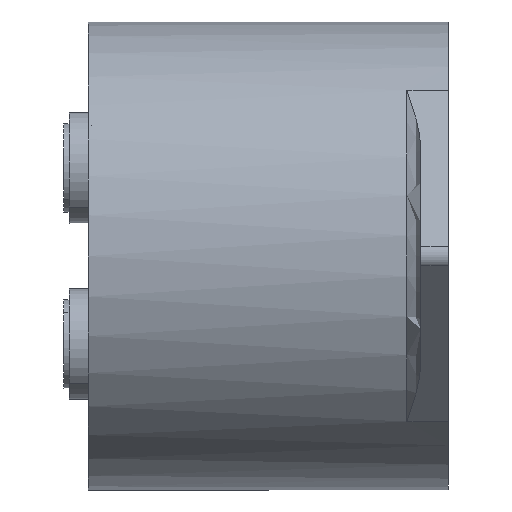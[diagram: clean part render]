
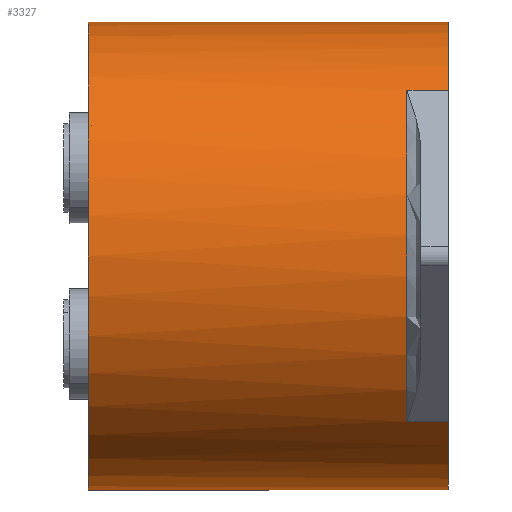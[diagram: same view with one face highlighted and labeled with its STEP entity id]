
A CAD part, left-side view. The second image highlights one B-rep face of the part: STEP entity #3327.
In plain terms, the highlighted cylindrical face has radius 42.25 mm (diameter 84.5 mm), a partial arc.
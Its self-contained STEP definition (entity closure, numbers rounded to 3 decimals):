
#26 = LINE ( 'NONE', #2326, #2755 ) ;
#60 = DIRECTION ( 'NONE',  ( 0., 0., -1. ) ) ;
#175 = VECTOR ( 'NONE', #5334, 1000. ) ;
#388 = VERTEX_POINT ( 'NONE', #2810 ) ;
#416 = DIRECTION ( 'NONE',  ( 0., -1., 0. ) ) ;
#588 = VECTOR ( 'NONE', #3111, 1000. ) ;
#634 = CARTESIAN_POINT ( 'NONE',  ( 0., 0., 0. ) ) ;
#853 = LINE ( 'NONE', #4677, #588 ) ;
#1066 = VERTEX_POINT ( 'NONE', #3037 ) ;
#1364 = EDGE_CURVE ( 'NONE', #5936, #388, #3461, .T. ) ;
#1412 = CARTESIAN_POINT ( 'NONE',  ( 0., 7.5, 0. ) ) ;
#1919 = DIRECTION ( 'NONE',  ( 0., 0., -1. ) ) ;
#2131 = EDGE_CURVE ( 'NONE', #5644, #3891, #26, .T. ) ;
#2193 = CARTESIAN_POINT ( 'NONE',  ( 0., 0., 0. ) ) ;
#2269 = VERTEX_POINT ( 'NONE', #3476 ) ;
#2298 = ORIENTED_EDGE ( 'NONE', *, *, #2811, .T. ) ;
#2326 = CARTESIAN_POINT ( 'NONE',  ( -29.857, 5., 29.894 ) ) ;
#2384 = EDGE_CURVE ( 'NONE', #2269, #388, #4881, .T. ) ;
#2700 = DIRECTION ( 'NONE',  ( 0., 0., -1. ) ) ;
#2708 = ORIENTED_EDGE ( 'NONE', *, *, #2131, .T. ) ;
#2755 = VECTOR ( 'NONE', #6533, 1000. ) ;
#2810 = CARTESIAN_POINT ( 'NONE',  ( 0., 0., -42.25 ) ) ;
#2811 = EDGE_CURVE ( 'NONE', #6051, #5644, #6332, .T. ) ;
#3037 = CARTESIAN_POINT ( 'NONE',  ( 0., 0., 42.25 ) ) ;
#3111 = DIRECTION ( 'NONE',  ( 0., -1., 0. ) ) ;
#3227 = FACE_OUTER_BOUND ( 'NONE', #5017, .T. ) ;
#3232 = CIRCLE ( 'NONE', #3324, 42.25 ) ;
#3324 = AXIS2_PLACEMENT_3D ( 'NONE', #3684, #4809, #2700 ) ;
#3327 = ADVANCED_FACE ( 'NONE', ( #3227 ), #6315, .T. ) ;
#3461 = CIRCLE ( 'NONE', #3648, 42.25 ) ;
#3476 = CARTESIAN_POINT ( 'NONE',  ( 0., 65., -42.25 ) ) ;
#3648 = AXIS2_PLACEMENT_3D ( 'NONE', #634, #5326, #60 ) ;
#3684 = CARTESIAN_POINT ( 'NONE',  ( 0., 65., 0. ) ) ;
#3891 = VERTEX_POINT ( 'NONE', #4329 ) ;
#3959 = CIRCLE ( 'NONE', #6643, 42.25 ) ;
#4159 = ORIENTED_EDGE ( 'NONE', *, *, #2384, .T. ) ;
#4313 = ORIENTED_EDGE ( 'NONE', *, *, #4722, .F. ) ;
#4329 = CARTESIAN_POINT ( 'NONE',  ( -29.857, 0., 29.894 ) ) ;
#4440 = DIRECTION ( 'NONE',  ( 0., -1., 0. ) ) ;
#4524 = ORIENTED_EDGE ( 'NONE', *, *, #4956, .F. ) ;
#4677 = CARTESIAN_POINT ( 'NONE',  ( -29.857, 5., -29.894 ) ) ;
#4722 = EDGE_CURVE ( 'NONE', #1066, #3891, #3959, .T. ) ;
#4796 = CARTESIAN_POINT ( 'NONE',  ( 0., 0., 42.25 ) ) ;
#4809 = DIRECTION ( 'NONE',  ( 0., -1., 0. ) ) ;
#4881 = LINE ( 'NONE', #6200, #6095 ) ;
#4956 = EDGE_CURVE ( 'NONE', #6051, #5936, #853, .T. ) ;
#4957 = DIRECTION ( 'NONE',  ( 0., 0., -1. ) ) ;
#5017 = EDGE_LOOP ( 'NONE', ( #5686, #5230, #4159, #5081, #4524, #2298, #2708, #4313 ) ) ;
#5051 = CARTESIAN_POINT ( 'NONE',  ( 0., 0., 0. ) ) ;
#5081 = ORIENTED_EDGE ( 'NONE', *, *, #1364, .F. ) ;
#5230 = ORIENTED_EDGE ( 'NONE', *, *, #6536, .T. ) ;
#5326 = DIRECTION ( 'NONE',  ( 0., -1., 0. ) ) ;
#5334 = DIRECTION ( 'NONE',  ( 0., -1., 0. ) ) ;
#5338 = CARTESIAN_POINT ( 'NONE',  ( 0., 65., 42.25 ) ) ;
#5421 = CARTESIAN_POINT ( 'NONE',  ( -29.857, 0., -29.894 ) ) ;
#5564 = DIRECTION ( 'NONE',  ( 0., 1., 0. ) ) ;
#5606 = LINE ( 'NONE', #4796, #175 ) ;
#5644 = VERTEX_POINT ( 'NONE', #6228 ) ;
#5686 = ORIENTED_EDGE ( 'NONE', *, *, #5816, .F. ) ;
#5733 = AXIS2_PLACEMENT_3D ( 'NONE', #1412, #5564, #1919 ) ;
#5795 = DIRECTION ( 'NONE',  ( 0., 0., -1. ) ) ;
#5816 = EDGE_CURVE ( 'NONE', #6479, #1066, #5606, .T. ) ;
#5936 = VERTEX_POINT ( 'NONE', #5421 ) ;
#6027 = AXIS2_PLACEMENT_3D ( 'NONE', #2193, #6243, #5795 ) ;
#6051 = VERTEX_POINT ( 'NONE', #6384 ) ;
#6095 = VECTOR ( 'NONE', #416, 1000. ) ;
#6200 = CARTESIAN_POINT ( 'NONE',  ( 0., 0., -42.25 ) ) ;
#6228 = CARTESIAN_POINT ( 'NONE',  ( -29.857, 7.5, 29.894 ) ) ;
#6243 = DIRECTION ( 'NONE',  ( 0., -1., 0. ) ) ;
#6315 = CYLINDRICAL_SURFACE ( 'NONE', #6027, 42.25 ) ;
#6332 = CIRCLE ( 'NONE', #5733, 42.25 ) ;
#6384 = CARTESIAN_POINT ( 'NONE',  ( -29.857, 7.5, -29.894 ) ) ;
#6479 = VERTEX_POINT ( 'NONE', #5338 ) ;
#6533 = DIRECTION ( 'NONE',  ( 0., -1., 0. ) ) ;
#6536 = EDGE_CURVE ( 'NONE', #6479, #2269, #3232, .T. ) ;
#6643 = AXIS2_PLACEMENT_3D ( 'NONE', #5051, #4440, #4957 ) ;
